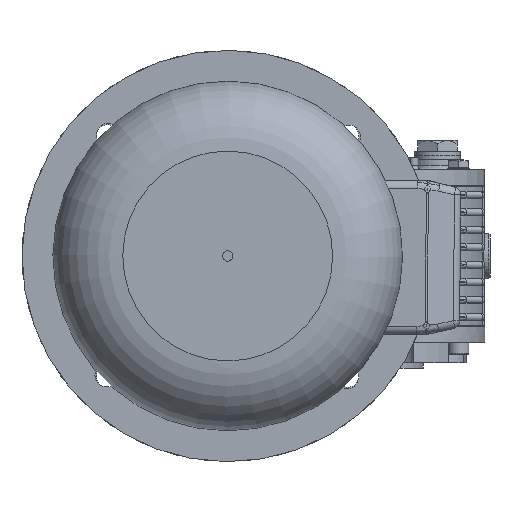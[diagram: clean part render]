
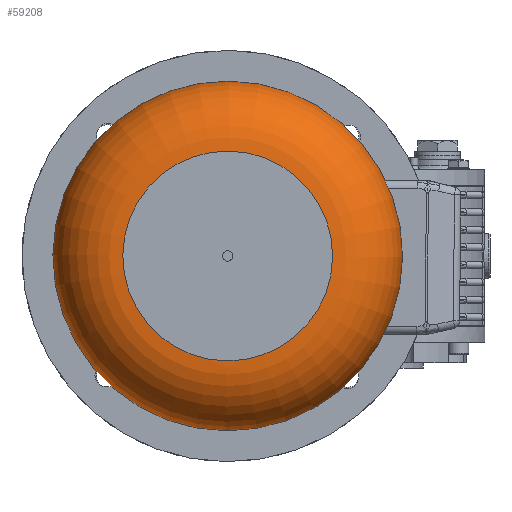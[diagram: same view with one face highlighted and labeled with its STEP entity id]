
A CAD part, left-side view. The second image highlights one B-rep face of the part: STEP entity #59208.
In plain terms, the highlighted toroidal (fillet/blend) face has major radius 51 mm and minor radius 34 mm.
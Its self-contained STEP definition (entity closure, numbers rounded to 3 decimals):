
#59181=CARTESIAN_POINT('',(346.0,0.0,0.0));
#59182=DIRECTION('',(1.0,0.0,0.0));
#59183=DIRECTION('',(0.0,0.0,-1.0));
#59184=AXIS2_PLACEMENT_3D('',#59181,#59182,#59183);
#59185=TOROIDAL_SURFACE('',#59184,51.,34.0);
#59186=CARTESIAN_POINT('',(380.0,51.,0.0));
#59187=VERTEX_POINT('',#59186);
#59188=CARTESIAN_POINT('',(380.0,0.0,0.0));
#59189=DIRECTION('',(1.0,0.0,0.0));
#59190=DIRECTION('',(0.0,1.0,0.0));
#59191=AXIS2_PLACEMENT_3D('',#59188,#59189,#59190);
#59192=CIRCLE('',#59191,51.);
#59193=EDGE_CURVE('',#59187,#59187,#59192,.T.);
#59194=ORIENTED_EDGE('',*,*,#59193,.F.);
#59195=EDGE_LOOP('',(#59194));
#59196=FACE_OUTER_BOUND('',#59195,.T.);
#59197=CARTESIAN_POINT('',(346.0,85.,0.0));
#59198=VERTEX_POINT('',#59197);
#59199=CARTESIAN_POINT('',(346.0,0.0,0.0));
#59200=DIRECTION('',(1.0,0.0,0.0));
#59201=DIRECTION('',(0.0,1.0,0.0));
#59202=AXIS2_PLACEMENT_3D('',#59199,#59200,#59201);
#59203=CIRCLE('',#59202,85.);
#59204=EDGE_CURVE('',#59198,#59198,#59203,.T.);
#59205=ORIENTED_EDGE('',*,*,#59204,.T.);
#59206=EDGE_LOOP('',(#59205));
#59207=FACE_BOUND('',#59206,.T.);
#59208=ADVANCED_FACE('',(#59196,#59207),#59185,.T.);
